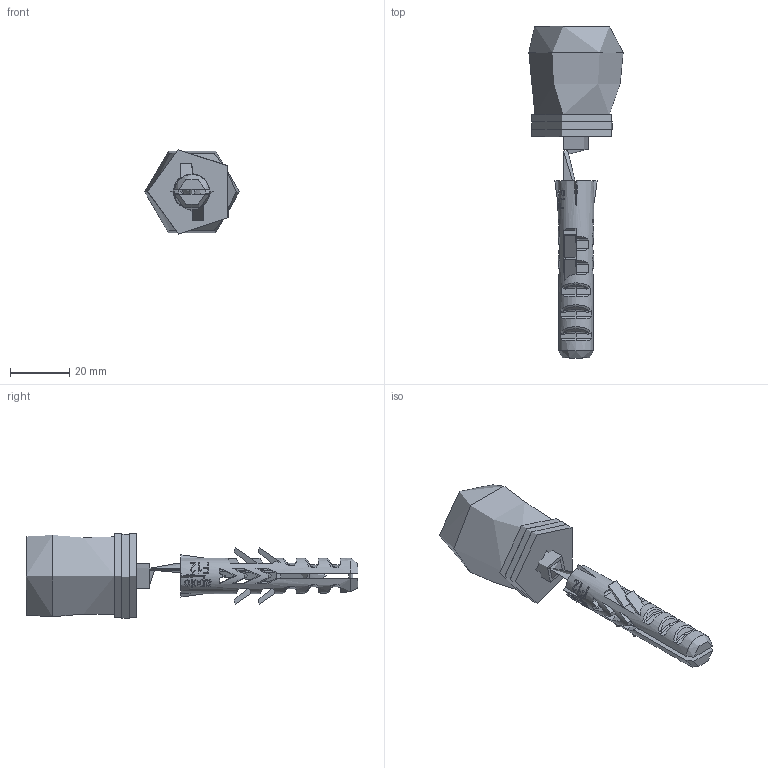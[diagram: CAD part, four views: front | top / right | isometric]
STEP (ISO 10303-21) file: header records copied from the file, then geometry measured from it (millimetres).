
FILE_DESCRIPTION(/* description */ ('Kunststoff Rolle Ø32'),/* implementation_level */ '2;1');
FILE_NAME(/* name */ 'Q:\sge-ma\Produktmanagement-STB\STB\Workspace\TraceParts\Bodenführungsrolle Nylon mit Dübel\010337704.stp',/* time_stamp */ '2018-03-05T12:25:43+01:00',/* author */ ('avschreier'),/* organization */ (''),/* preprocessor_version */ 'ST-DEVELOPER v16.1',/* originating_system */ 'Autodesk Inventor 2016',/* authorisation */ '');
FILE_SCHEMA (('CONFIG_CONTROL_DESIGN'));
Length unit declared in the file: millimetre
Products named in the file (6): 337000174; 337000173; DIN 7997 - 10 x 100; DIN_EN_ISO_7093-10,5_en; Dubel_F12; 010337704
Assembly tree (7 placements, depth 2):
  010337704
    337000174
    337000173
    DIN 7997 - 10 x 100
    DIN_EN_ISO_7093-10,5_en  x3
    Dubel_F12
Bounding box: 32 x 112.5 x 28.6 mm (x, y, z)
Volume: 32188.8 mm3; surface area: 20356.1 mm2
Topology: 7 solids, 7 shells, 408 faces, 1093 edges, 709 vertices
Faces by surface type: plane 215, bspline 108, cylinder 78, cone 7
Full cylindrical faces by diameter (mm): 1.44 x1, 9.48 x1, 10 x1, 10.5 x4, 12 x1, 14 x1, 14.2 x1, 18.4 x1, 21 x1, 30 x3
Entity records: 19567 total; most frequent: CARTESIAN_POINT 9746, ORIENTED_EDGE 2104, DIRECTION 1642, EDGE_CURVE 1052, VERTEX_POINT 692, LINE 574, VECTOR 574, AXIS2_PLACEMENT_3D 534
